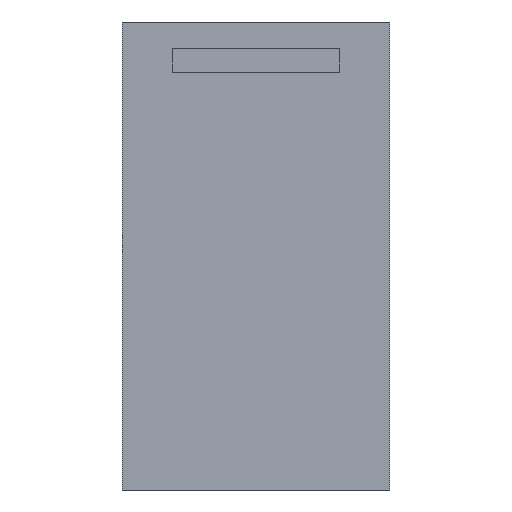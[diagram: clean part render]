
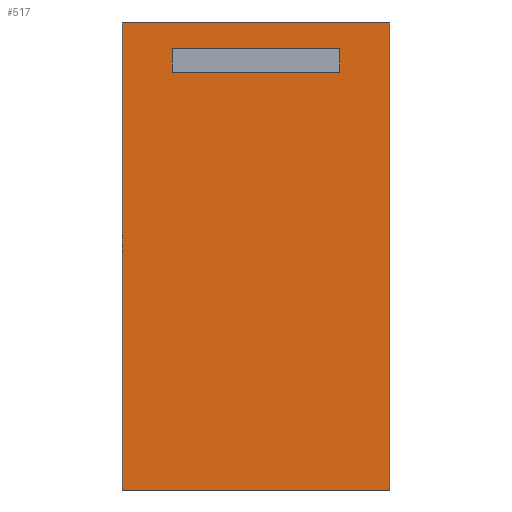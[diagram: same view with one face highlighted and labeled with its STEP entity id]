
A CAD part, front view. The second image highlights one B-rep face of the part: STEP entity #517.
In plain terms, the highlighted planar face has unit normal (0, -1, 0).
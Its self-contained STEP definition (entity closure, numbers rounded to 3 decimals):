
#47=FACE_BOUND('',#92,.T.);
#62=FACE_OUTER_BOUND('',#91,.T.);
#91=EDGE_LOOP('',(#359,#360,#361,#362));
#92=EDGE_LOOP('',(#363,#364,#365,#366));
#115=LINE('',#766,#159);
#119=LINE('',#774,#163);
#122=LINE('',#780,#166);
#125=LINE('',#785,#169);
#127=LINE('',#791,#171);
#131=LINE('',#799,#175);
#134=LINE('',#805,#178);
#137=LINE('',#810,#181);
#159=VECTOR('',#614,10.);
#163=VECTOR('',#620,10.);
#166=VECTOR('',#625,10.);
#169=VECTOR('',#630,10.);
#171=VECTOR('',#636,10.);
#175=VECTOR('',#642,10.);
#178=VECTOR('',#647,10.);
#181=VECTOR('',#652,10.);
#203=VERTEX_POINT('',#764);
#204=VERTEX_POINT('',#765);
#207=VERTEX_POINT('',#773);
#209=VERTEX_POINT('',#779);
#211=VERTEX_POINT('',#789);
#212=VERTEX_POINT('',#790);
#215=VERTEX_POINT('',#798);
#217=VERTEX_POINT('',#804);
#251=EDGE_CURVE('',#203,#204,#115,.T.);
#255=EDGE_CURVE('',#207,#203,#119,.T.);
#258=EDGE_CURVE('',#209,#207,#122,.T.);
#261=EDGE_CURVE('',#204,#209,#125,.T.);
#263=EDGE_CURVE('',#211,#212,#127,.T.);
#267=EDGE_CURVE('',#215,#211,#131,.T.);
#270=EDGE_CURVE('',#217,#215,#134,.T.);
#273=EDGE_CURVE('',#212,#217,#137,.T.);
#359=ORIENTED_EDGE('',*,*,#273,.F.);
#360=ORIENTED_EDGE('',*,*,#263,.F.);
#361=ORIENTED_EDGE('',*,*,#267,.F.);
#362=ORIENTED_EDGE('',*,*,#270,.F.);
#363=ORIENTED_EDGE('',*,*,#251,.T.);
#364=ORIENTED_EDGE('',*,*,#261,.T.);
#365=ORIENTED_EDGE('',*,*,#258,.T.);
#366=ORIENTED_EDGE('',*,*,#255,.T.);
#465=PLANE('',#567);
#517=ADVANCED_FACE('',(#62,#47),#465,.F.);
#567=AXIS2_PLACEMENT_3D('',#813,#656,#657);
#614=DIRECTION('',(0.,0.,-1.));
#620=DIRECTION('',(1.,0.,0.));
#625=DIRECTION('',(0.,0.,1.));
#630=DIRECTION('',(-1.,0.,0.));
#636=DIRECTION('',(0.,0.,1.));
#642=DIRECTION('',(-1.,0.,0.));
#647=DIRECTION('',(0.,0.,-1.));
#652=DIRECTION('',(1.,0.,0.));
#656=DIRECTION('center_axis',(0.,1.,0.));
#657=DIRECTION('ref_axis',(0.,0.,1.));
#764=CARTESIAN_POINT('',(125.,-26.,660.));
#765=CARTESIAN_POINT('',(125.,-26.,625.));
#766=CARTESIAN_POINT('',(125.,-26.,505.));
#773=CARTESIAN_POINT('',(-125.,-26.,660.));
#774=CARTESIAN_POINT('',(-62.5,-26.,660.));
#779=CARTESIAN_POINT('',(-125.,-26.,625.));
#780=CARTESIAN_POINT('',(-125.,-26.,487.5));
#785=CARTESIAN_POINT('',(62.5,-26.,625.));
#789=CARTESIAN_POINT('',(-200.,-26.,0.));
#790=CARTESIAN_POINT('',(-200.,-26.,700.));
#791=CARTESIAN_POINT('',(-200.,-26.,0.));
#798=CARTESIAN_POINT('',(200.,-26.,0.));
#799=CARTESIAN_POINT('',(200.,-26.,0.));
#804=CARTESIAN_POINT('',(200.,-26.,700.));
#805=CARTESIAN_POINT('',(200.,-26.,700.));
#810=CARTESIAN_POINT('',(-200.,-26.,700.));
#813=CARTESIAN_POINT('Origin',(0.,-26.,350.));
